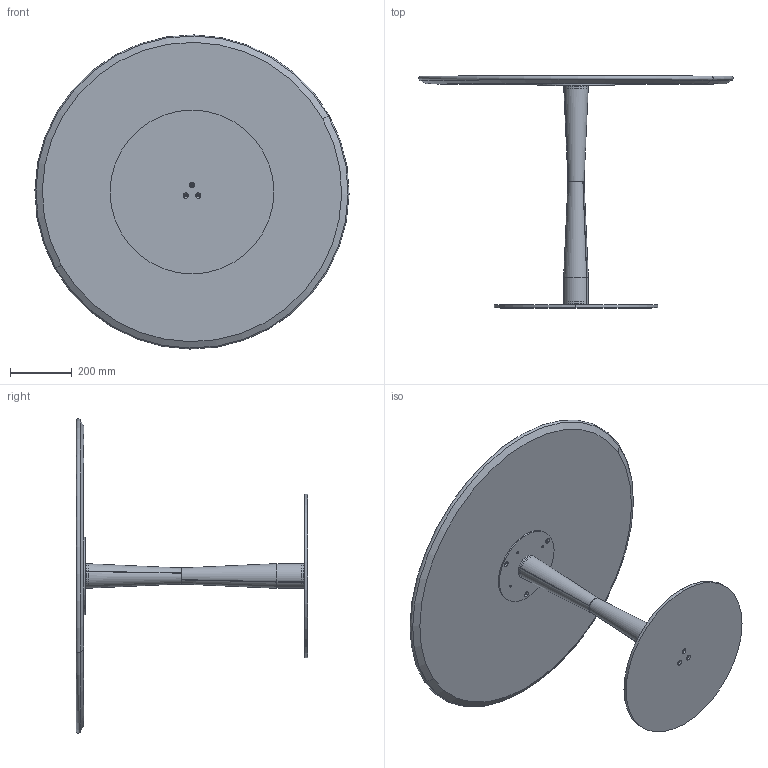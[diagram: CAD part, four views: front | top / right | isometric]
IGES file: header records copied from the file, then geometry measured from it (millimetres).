
Start section: SolidWorks IGES file using analytic representation for surfaces
Global section: file name: Y:\eforma\TECNICO\SOLIDWORKS\E-FORMA\5-TAVOLINI BISTRO\FILÚ\02 parts\FI30B.IGS; native system: SolidWorks 2022; preprocessor: SolidWorks 2022; author: eforma.tech; date: 240808.100231; units: millimetre
Bounding box: 1016.7 x 750 x 1016.7 mm (x, y, z)
Volume: 22504568.7 mm3; surface area: 4144924.7 mm2
Topology: 8 solids, 8 shells, 117 faces, 268 edges, 168 vertices
Faces by surface type: revolution 100, plane 17
